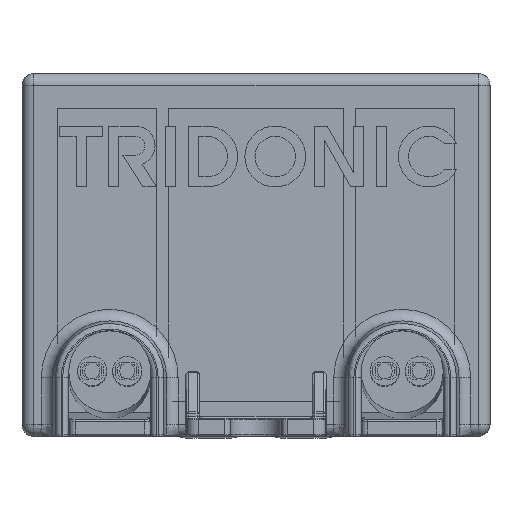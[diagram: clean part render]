
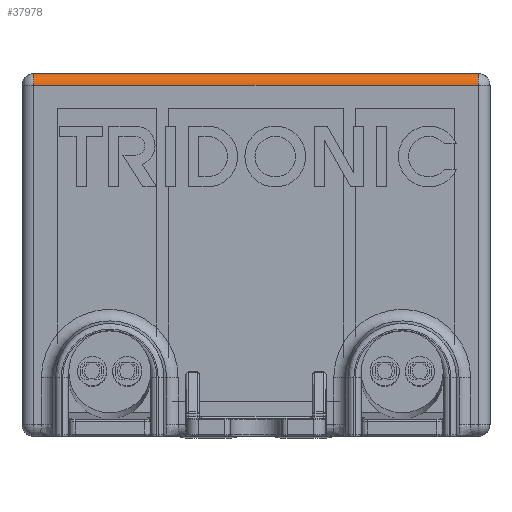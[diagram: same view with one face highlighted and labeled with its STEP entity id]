
A CAD part, top view. The second image highlights one B-rep face of the part: STEP entity #37978.
In plain terms, the highlighted cylindrical face has radius 1 mm (diameter 2 mm), a partial arc.
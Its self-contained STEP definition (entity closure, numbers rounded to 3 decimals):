
#13516=CARTESIAN_POINT('',(19.,14.5,2.));
#13517=DIRECTION('',(-1.,0.,0.));
#13518=DIRECTION('',(0.,0.,1.));
#13519=AXIS2_PLACEMENT_3D('',#13516,#13517,#13518);
#13524=DIRECTION('',(-1.,0.,0.));
#13525=VECTOR('',#13524,38.);
#13526=CARTESIAN_POINT('',(19.,14.5,3.));
#13527=LINE('',#13526,#13525);
#13531=CARTESIAN_POINT('',(-19.,14.5,2.));
#13532=DIRECTION('',(-1.,0.,0.));
#13533=DIRECTION('',(0.,0.,1.));
#13534=AXIS2_PLACEMENT_3D('',#13531,#13532,#13533);
#13539=DIRECTION('',(1.,0.,0.));
#13540=VECTOR('',#13539,38.);
#13541=CARTESIAN_POINT('',(-19.,15.5,2.));
#13542=LINE('',#13541,#13540);
#23262=CARTESIAN_POINT('',(-19.,14.5,3.));
#23263=VERTEX_POINT('',#23262);
#23264=CARTESIAN_POINT('',(19.,14.5,3.));
#23265=VERTEX_POINT('',#23264);
#23499=CARTESIAN_POINT('',(-19.,15.5,2.));
#23500=VERTEX_POINT('',#23499);
#23501=CARTESIAN_POINT('',(19.,15.5,2.));
#23502=VERTEX_POINT('',#23501);
#37965=CARTESIAN_POINT('',(19.76,14.5,2.));
#37966=DIRECTION('',(-1.,0.,0.));
#37967=DIRECTION('',(0.,0.,1.));
#37968=AXIS2_PLACEMENT_3D('',#37965,#37966,#37967);
#37969=CYLINDRICAL_SURFACE('',#37968,1.);
#37970=ORIENTED_EDGE('',*,*,#28887,.T.);
#37972=ORIENTED_EDGE('',*,*,#37971,.T.);
#37974=ORIENTED_EDGE('',*,*,#37973,.T.);
#37975=ORIENTED_EDGE('',*,*,#37959,.F.);
#37976=EDGE_LOOP('',(#37970,#37972,#37974,#37975));
#37977=FACE_OUTER_BOUND('',#37976,.F.);
#13520=CIRCLE('',#13519,1.);
#13535=CIRCLE('',#13534,1.);
#28887=EDGE_CURVE('',#23265,#23263,#13527,.T.);
#37959=EDGE_CURVE('',#23265,#23502,#13520,.T.);
#37971=EDGE_CURVE('',#23263,#23500,#13535,.T.);
#37973=EDGE_CURVE('',#23500,#23502,#13542,.T.);
#37978=ADVANCED_FACE('',(#37977),#37969,.T.);
